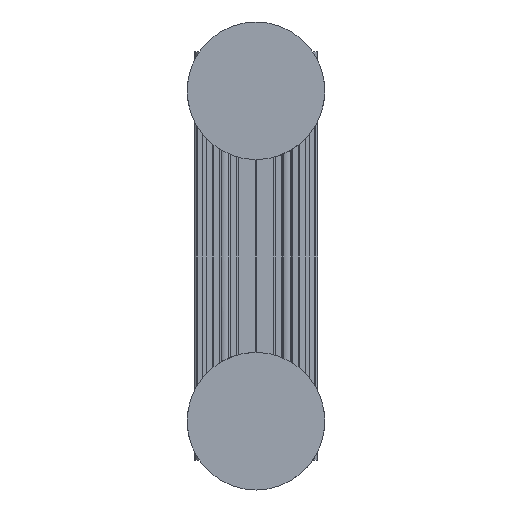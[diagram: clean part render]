
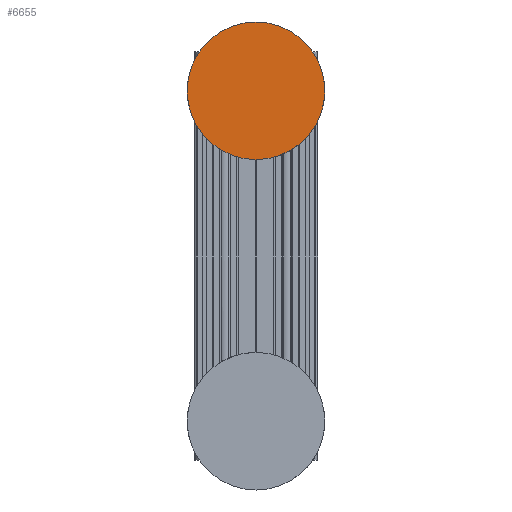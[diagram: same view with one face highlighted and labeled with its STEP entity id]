
A CAD part, front view. The second image highlights one B-rep face of the part: STEP entity #6655.
In plain terms, the highlighted planar face has unit normal (0, -1, 0).
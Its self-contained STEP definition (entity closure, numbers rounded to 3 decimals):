
#1376 = AXIS2_PLACEMENT_3D ( 'NONE', #11806, #38897, #15673 ) ;
#2233 = VERTEX_POINT ( 'NONE', #24361 ) ;
#3880 = DIRECTION ( 'NONE',  ( 0., 1., 0. ) ) ;
#5075 = EDGE_LOOP ( 'NONE', ( #32947, #31088 ) ) ;
#5363 = CARTESIAN_POINT ( 'NONE',  ( -50., 0., 0. ) ) ;
#6108 = FACE_OUTER_BOUND ( 'NONE', #5075, .T. ) ;
#6655 = ADVANCED_FACE ( 'NONE', ( #6108 ), #46468, .T. ) ;
#7232 = AXIS2_PLACEMENT_3D ( 'NONE', #27064, #3880, #30976 ) ;
#11806 = CARTESIAN_POINT ( 'NONE',  ( 0., 0., 0. ) ) ;
#14784 = CIRCLE ( 'NONE', #7232, 50. ) ;
#15673 = DIRECTION ( 'NONE',  ( 0., 0., 1. ) ) ;
#22291 = EDGE_CURVE ( 'NONE', #30654, #2233, #49414, .T. ) ;
#24040 = CARTESIAN_POINT ( 'NONE',  ( 0., 0., 50. ) ) ;
#24361 = CARTESIAN_POINT ( 'NONE',  ( 0., 0., -50. ) ) ;
#27064 = CARTESIAN_POINT ( 'NONE',  ( 0., 0., 0. ) ) ;
#30654 = VERTEX_POINT ( 'NONE', #24040 ) ;
#30976 = DIRECTION ( 'NONE',  ( 0., 0., 1. ) ) ;
#31088 = ORIENTED_EDGE ( 'NONE', *, *, #32750, .F. ) ;
#31946 = DIRECTION ( 'NONE',  ( 0., 0., -1. ) ) ;
#32746 = DIRECTION ( 'NONE',  ( 0., -1., 0. ) ) ;
#32750 = EDGE_CURVE ( 'NONE', #2233, #30654, #14784, .T. ) ;
#32947 = ORIENTED_EDGE ( 'NONE', *, *, #22291, .F. ) ;
#36271 = AXIS2_PLACEMENT_3D ( 'NONE', #5363, #32746, #31946 ) ;
#38897 = DIRECTION ( 'NONE',  ( 0., 1., 0. ) ) ;
#46468 = PLANE ( 'NONE',  #36271 ) ;
#49414 = CIRCLE ( 'NONE', #1376, 50. ) ;
